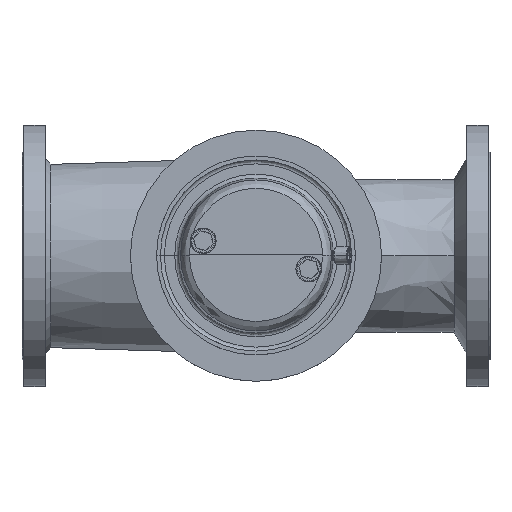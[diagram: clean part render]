
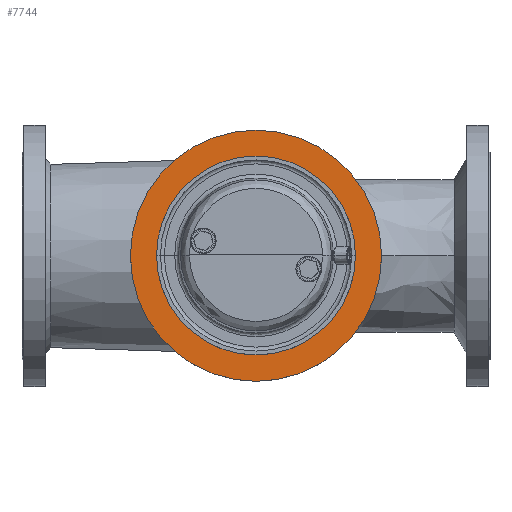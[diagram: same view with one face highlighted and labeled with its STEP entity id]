
A CAD part, top view. The second image highlights one B-rep face of the part: STEP entity #7744.
In plain terms, the highlighted planar face has unit normal (0, 0, 1).
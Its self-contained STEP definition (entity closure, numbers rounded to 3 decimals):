
#1296=FACE_BOUND('',#1967,.T.);
#1380=FACE_OUTER_BOUND('',#1966,.T.);
#1966=EDGE_LOOP('',(#5179,#5180));
#1967=EDGE_LOOP('',(#5181,#5182));
#2559=CIRCLE('',#8455,161.);
#2560=CIRCLE('',#8456,161.);
#2561=CIRCLE('',#8457,42.5);
#2562=CIRCLE('',#8458,42.5);
#3243=VERTEX_POINT('',#12255);
#3244=VERTEX_POINT('',#12256);
#3245=VERTEX_POINT('',#12259);
#3246=VERTEX_POINT('',#12260);
#3901=EDGE_CURVE('',#3243,#3244,#2559,.T.);
#3902=EDGE_CURVE('',#3244,#3243,#2560,.T.);
#3903=EDGE_CURVE('',#3245,#3246,#2561,.T.);
#3904=EDGE_CURVE('',#3246,#3245,#2562,.T.);
#5179=ORIENTED_EDGE('',*,*,#3901,.T.);
#5180=ORIENTED_EDGE('',*,*,#3902,.T.);
#5181=ORIENTED_EDGE('',*,*,#3903,.T.);
#5182=ORIENTED_EDGE('',*,*,#3904,.T.);
#6959=PLANE('',#8454);
#7744=ADVANCED_FACE('',(#1380,#1296),#6959,.T.);
#8454=AXIS2_PLACEMENT_3D('',#12254,#9791,#9792);
#8455=AXIS2_PLACEMENT_3D('',#12257,#9793,#9794);
#8456=AXIS2_PLACEMENT_3D('',#12258,#9795,#9796);
#8457=AXIS2_PLACEMENT_3D('',#12261,#9797,#9798);
#8458=AXIS2_PLACEMENT_3D('',#12262,#9799,#9800);
#9791=DIRECTION('center_axis',(0.,0.,1.));
#9792=DIRECTION('ref_axis',(0.,1.,0.));
#9793=DIRECTION('center_axis',(0.,0.,1.));
#9794=DIRECTION('ref_axis',(1.,0.,0.));
#9795=DIRECTION('center_axis',(0.,0.,1.));
#9796=DIRECTION('ref_axis',(1.,0.,0.));
#9797=DIRECTION('center_axis',(0.,0.,-1.));
#9798=DIRECTION('ref_axis',(1.,0.,0.));
#9799=DIRECTION('center_axis',(0.,0.,-1.));
#9800=DIRECTION('ref_axis',(1.,0.,0.));
#12254=CARTESIAN_POINT('Origin',(161.,0.,201.5));
#12255=CARTESIAN_POINT('',(-161.,0.,201.5));
#12256=CARTESIAN_POINT('',(161.,0.,201.5));
#12257=CARTESIAN_POINT('Origin',(0.,0.,201.5));
#12258=CARTESIAN_POINT('Origin',(0.,0.,201.5));
#12259=CARTESIAN_POINT('',(-42.5,0.,201.5));
#12260=CARTESIAN_POINT('',(42.5,0.,201.5));
#12261=CARTESIAN_POINT('Origin',(0.,0.,201.5));
#12262=CARTESIAN_POINT('Origin',(0.,0.,201.5));
